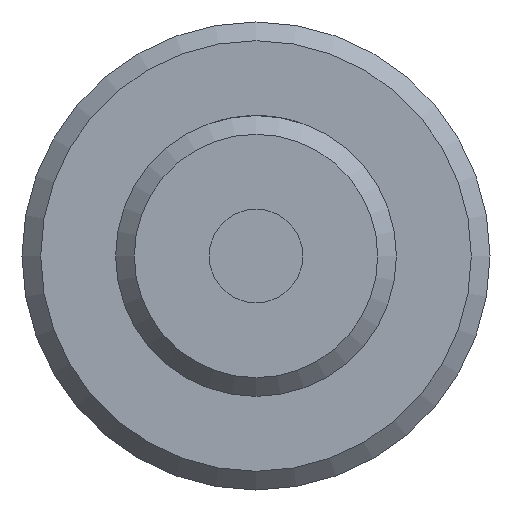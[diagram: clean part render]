
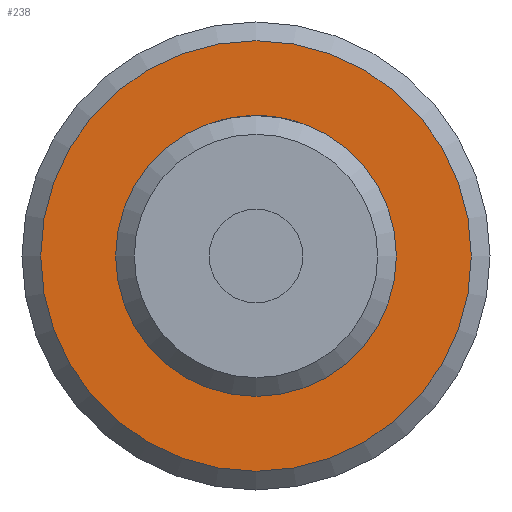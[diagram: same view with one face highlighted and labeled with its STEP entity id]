
A CAD part, front view. The second image highlights one B-rep face of the part: STEP entity #238.
In plain terms, the highlighted planar face has unit normal (0, -1, 0).
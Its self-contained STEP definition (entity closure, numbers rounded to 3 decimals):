
#22=FACE_BOUND('',#66,.T.);
#31=PLANE('',#280);
#44=FACE_OUTER_BOUND('',#65,.T.);
#65=EDGE_LOOP('',(#195));
#66=EDGE_LOOP('',(#196));
#85=CIRCLE('',#279,7.5);
#86=CIRCLE('',#281,11.5);
#127=VERTEX_POINT('',#446);
#128=VERTEX_POINT('',#450);
#150=EDGE_CURVE('',#127,#127,#85,.T.);
#152=EDGE_CURVE('',#128,#128,#86,.T.);
#195=ORIENTED_EDGE('',*,*,#152,.F.);
#196=ORIENTED_EDGE('',*,*,#150,.T.);
#238=ADVANCED_FACE('',(#44,#22),#31,.T.);
#279=AXIS2_PLACEMENT_3D('',#447,#334,#335);
#280=AXIS2_PLACEMENT_3D('',#449,#337,#338);
#281=AXIS2_PLACEMENT_3D('',#451,#339,#340);
#334=DIRECTION('center_axis',(0.,1.,0.));
#335=DIRECTION('ref_axis',(1.,0.,0.));
#337=DIRECTION('center_axis',(0.,-1.,0.));
#338=DIRECTION('ref_axis',(0.,0.,-1.));
#339=DIRECTION('center_axis',(0.,1.,0.));
#340=DIRECTION('ref_axis',(1.,0.,0.));
#446=CARTESIAN_POINT('',(0.,20.,-7.5));
#447=CARTESIAN_POINT('Origin',(0.,20.,0.));
#449=CARTESIAN_POINT('Origin',(0.,20.,11.5));
#450=CARTESIAN_POINT('',(0.,20.,-11.5));
#451=CARTESIAN_POINT('Origin',(0.,20.,0.));
